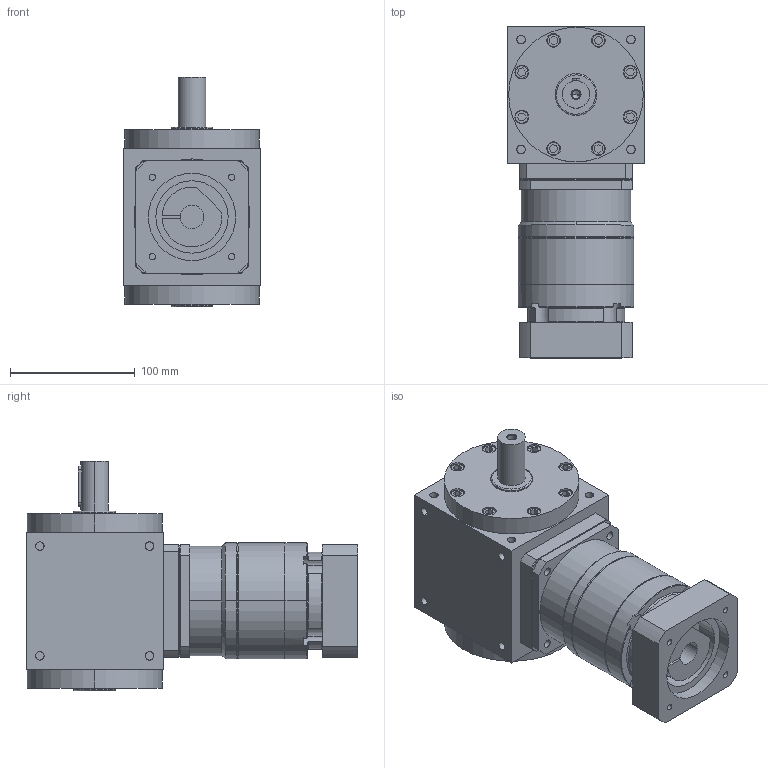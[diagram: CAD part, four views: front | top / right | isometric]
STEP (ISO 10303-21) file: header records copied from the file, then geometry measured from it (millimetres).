
FILE_DESCRIPTION (( 'STEP AP203' ), '1' );
FILE_NAME ('AT110-FL1-L2 19-70-90-M6.STEP', '2024-12-20T06:34:56', ( '' ), ( '' ), 'SwSTEP 2.0', 'SolidWorks 2021', '' );
FILE_SCHEMA (( 'CONFIG_CONTROL_DESIGN' ));
Length unit declared in the file: millimetre
Products named in the file (3): VRB-090-L2-S2-P1 19-70-90-M6; AT110-FL1-L2 19-70-90-M6; AT110-FL1
Assembly tree (2 placements, depth 2):
  AT110-FL1-L2 19-70-90-M6
    AT110-FL1
    VRB-090-L2-S2-P1 19-70-90-M6
Bounding box: 110 x 266 x 184 mm (x, y, z)
Volume: 2678863.5 mm3; surface area: 188180.1 mm2
Topology: 2 solids, 2 shells, 523 faces, 1266 edges, 811 vertices
Faces by surface type: cylinder 230, plane 230, cone 53, bspline 10
Entity records: 16068 total; most frequent: CARTESIAN_POINT 3551, DIRECTION 2587, ORIENTED_EDGE 2524, EDGE_CURVE 1262, AXIS2_PLACEMENT_3D 975, VERTEX_POINT 811, LINE 637, VECTOR 637
